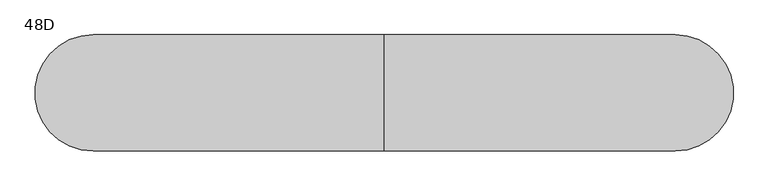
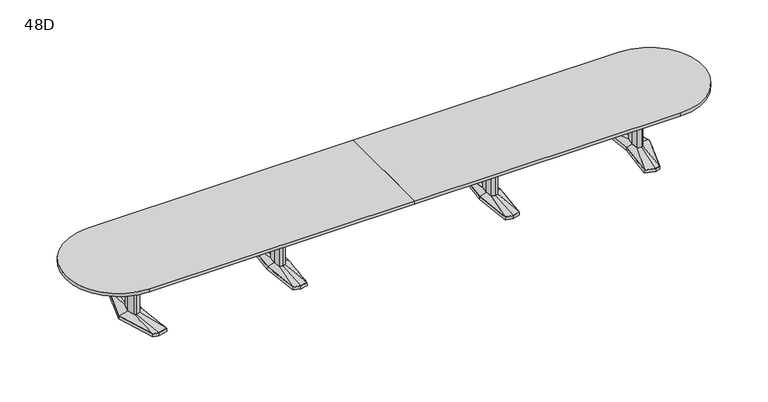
"""IFC4 building model written with IfcOpenShell, lengths in millimetres: furniture geometry, Coalesse_AM_Table_Conference_ETable2_Racetrack_24ft_AluminiumBase : 48D."""

from ifc_helpers import new_model, si_unit, point, frame, frame_2d, origin, place, context, project, spatial, polyline, circle_curve, trimmed, segment, composite_curve, outline, extrude, faceted_brep, source, transform, mapped, element, save
from ifc_brep_helpers import plane_surface, spline_surface, advanced_brep


def furniture_48d_b879e8bd(model_context):
    return source(origin(), model_context, "Body", "SolidModel", [
        faceted_brep([(1137.9666209, -433.8053819, 38.1), (1219.2, -455.556576, 38.1), (1300.4333791, -433.8053819, 38.1), (1338.2564774, 0.0, 38.1), (1300.4333791, 433.8053819, 38.1), (1219.2, 455.556576, 38.1), (1137.9666209, 433.8053819, 38.1), (1100.1435226, 0.0, 38.1), (1136.4817205, -435.0512063, 3.175), (1098.55, 0.0, 3.175), (1136.4817205, 435.0512063, 3.175), (1219.2, 457.2, 3.175), (1301.9182795, 435.0512063, 3.175), (1339.85, 0.0, 3.175), (1301.9182795, -435.0512063, 3.175), (1219.2, -457.2, 3.175), (1219.2, 429.2617927, 3.175), (1141.2323194, 408.3850278, 3.175), (1144.4980179, 382.9646737, 3.175), (1219.2, 402.9670094, 3.175), (1293.9019821, 382.9646737, 3.175), (1297.1676806, 408.3850278, 3.175), (1219.2, -429.2617927, 3.175), (1297.1676806, -408.3850278, 3.175), (1293.9019821, -382.9646737, 3.175), (1219.2, -402.9670094, 3.175), (1144.4980179, -382.9646737, 3.175), (1141.2323194, -408.3850278, 3.175), (1147.3425738, 114.6326257, 3.175), (1136.6573924, 0.0, 3.175), (1147.3425738, -114.6326257, 3.175), (1219.2, -133.8761372, 3.175), (1291.0574262, -114.6326257, 3.175), (1301.7426076, 0.0, 3.175), (1291.0574262, 114.6326257, 3.175), (1219.2, 133.8761372, 3.175), (1219.2, 429.2617927, 0.0), (1297.1676806, 408.3850278, 0.0), (1293.9019821, 382.9646737, 0.0), (1219.2, 402.9670094, 0.0), (1144.4980179, 382.9646737, 0.0), (1141.2323194, 408.3850278, 0.0), (1219.2, -429.2617927, 0.0), (1141.2323194, -408.3850278, 0.0), (1144.4980179, -382.9646737, 0.0), (1219.2, -402.9670094, 0.0), (1293.9019821, -382.9646737, 0.0), (1297.1676806, -408.3850278, 0.0), (1147.3425738, 114.6326257, 0.0), (1219.2, 133.8761372, 0.0), (1291.0574262, 114.6326257, 0.0), (1301.7426076, 0.0, 0.0), (1291.0574262, -114.6326257, 0.0), (1219.2, -133.8761372, 0.0), (1147.3425738, -114.6326257, 0.0), (1136.6573924, 0.0, 0.0)], [[[0, 1, 2, 3, 4, 5, 6, 7]], [[8, 9, 10, 11, 12, 13, 14, 15], [16, 17, 18, 19, 20, 21], [22, 23, 24, 25, 26, 27], [28, 29, 30, 31, 32, 33, 34, 35]], [[1, 0, 8, 15]], [[2, 1, 15, 14]], [[3, 2, 14, 13]], [[4, 3, 13, 12]], [[5, 4, 12, 11]], [[6, 5, 11, 10]], [[7, 6, 10, 9]], [[0, 7, 9, 8]], [[36, 37, 38, 39, 40, 41]], [[42, 43, 44, 45, 46, 47]], [[48, 49, 50, 51, 52, 53, 54, 55]], [[36, 41, 17, 16]], [[41, 40, 18, 17]], [[40, 39, 19, 18]], [[39, 38, 20, 19]], [[38, 37, 21, 20]], [[37, 36, 16, 21]], [[42, 47, 23, 22]], [[47, 46, 24, 23]], [[46, 45, 25, 24]], [[45, 44, 26, 25]], [[44, 43, 27, 26]], [[43, 42, 22, 27]], [[48, 55, 29, 28]], [[55, 54, 30, 29]], [[54, 53, 31, 30]], [[53, 52, 32, 31]], [[52, 51, 33, 32]], [[51, 50, 34, 33]], [[50, 49, 35, 34]], [[49, 48, 28, 35]]]),
        faceted_brep([(1182.8167166, 84.6900825, 698.5), (1174.9225513, 0.0, 698.5), (1182.8167166, -84.6900825, 698.5), (1219.2, -94.4335728, 698.5), (1255.5832834, -84.6900825, 698.5), (1263.4774487, 0.0, 698.5), (1255.5832834, 84.6900825, 698.5), (1219.2, 94.4335728, 698.5), (1182.8167166, 84.6900825, 63.5), (1219.2, 94.4335728, 63.5), (1255.5832834, 84.6900825, 63.5), (1263.4774487, 0.0, 63.5), (1255.5832834, -84.6900825, 63.5), (1219.2, -94.4335728, 63.5), (1182.8167166, -84.6900825, 63.5), (1174.9225513, 0.0, 63.5)], [[[0, 1, 2, 3, 4, 5, 6, 7]], [[8, 9, 10, 11, 12, 13, 14, 15]], [[1, 0, 8, 15]], [[2, 1, 15, 14]], [[3, 2, 14, 13]], [[4, 3, 13, 12]], [[5, 4, 12, 11]], [[6, 5, 11, 10]], [[7, 6, 10, 9]], [[0, 7, 9, 8]]]),
        advanced_brep(
        [(1182.8167166, 84.6900825, 63.5), (1174.9225513, 0.0, 63.5), (1182.8167166, -84.6900825, 63.5), (1219.2, -94.4335728, 63.5), (1255.5832834, -84.6900825, 63.5), (1263.4774487, 0.0, 63.5), (1255.5832834, 84.6900825, 63.5), (1219.2, 94.4335728, 63.5), (1137.9666209, 433.8053819, 38.1), (1219.2, 455.556576, 38.1), (1300.4333791, 433.8053819, 38.1), (1338.2564774, 0.0, 38.1), (1300.4333791, -433.8053819, 38.1), (1219.2, -455.556576, 38.1), (1137.9666209, -433.8053819, 38.1), (1100.1435226, 0.0, 38.1)],
        [
            (0, 1),
            (1, 2),
            (2, 3),
            (3, 4),
            (4, 5),
            (5, 6),
            (6, 7),
            (7, 0),
            (8, 9),
            (9, 10),
            (10, 11),
            (11, 12),
            (12, 13),
            (13, 14),
            (14, 15),
            (15, 8),
            (15, 1),
            (0, 8),
            (14, 2),
            (13, 3),
            (12, 4),
            (11, 5),
            (10, 6),
            (9, 7),
        ],
        [
            plane_surface(frame((1219.2, 0.0, 63.5), z_axis=(0.0, 0.0, 1.0000000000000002), x_axis=(-0.9659615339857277, -0.25868574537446, 0.0))),
            plane_surface(frame((1219.2, 0.0, 38.1), z_axis=(0.0, 0.0, -1.0000000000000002), x_axis=(-0.9659615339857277, -0.25868574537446, 0.0))),
            spline_surface(1, 1, [[(1137.9666209, 433.8053819, 38.1), (1182.8167166, 84.6900825, 63.5)], [(1100.1435226, 0.0, 38.1), (1174.9225513, 0.0, 63.5)]], [2, 2], [2, 2], [0.0, 1.0], [0.0, 1.0]),
            spline_surface(1, 1, [[(1100.1435226, 0.0, 38.1), (1174.9225513, 0.0, 63.5)], [(1137.9666209, -433.8053819, 38.1), (1182.8167166, -84.6900825, 63.5)]], [2, 2], [2, 2], [0.0, 1.0], [0.0, 1.0]),
            spline_surface(1, 1, [[(1137.9666209, -433.8053819, 38.1), (1182.8167166, -84.6900825, 63.5)], [(1219.2, -455.556576, 38.1), (1219.2, -94.4335728, 63.5)]], [2, 2], [2, 2], [0.0, 1.0], [0.0, 1.0]),
            spline_surface(1, 1, [[(1219.2, -455.556576, 38.1), (1219.2, -94.4335728, 63.5)], [(1300.4333791, -433.8053819, 38.1), (1255.5832834, -84.6900825, 63.5)]], [2, 2], [2, 2], [0.0, 1.0], [0.0, 1.0]),
            spline_surface(1, 1, [[(1300.4333791, -433.8053819, 38.1), (1255.5832834, -84.6900825, 63.5)], [(1338.2564774, 0.0, 38.1), (1263.4774487, 0.0, 63.5)]], [2, 2], [2, 2], [0.0, 1.0], [0.0, 1.0]),
            spline_surface(1, 1, [[(1338.2564774, 0.0, 38.1), (1263.4774487, 0.0, 63.5)], [(1300.4333791, 433.8053819, 38.1), (1255.5832834, 84.6900825, 63.5)]], [2, 2], [2, 2], [0.0, 1.0], [0.0, 1.0]),
            spline_surface(1, 1, [[(1300.4333791, 433.8053819, 38.1), (1255.5832834, 84.6900825, 63.5)], [(1219.2, 455.556576, 38.1), (1219.2, 94.4335728, 63.5)]], [2, 2], [2, 2], [0.0, 1.0], [0.0, 1.0]),
            spline_surface(1, 1, [[(1219.2, 455.556576, 38.1), (1219.2, 94.4335728, 63.5)], [(1137.9666209, 433.8053819, 38.1), (1182.8167166, 84.6900825, 63.5)]], [2, 2], [2, 2], [0.0, 1.0], [0.0, 1.0]),
        ],
        [
            (0, [[1, 2, 3, 4, 5, 6, 7, 8]]),
            (1, [[9, 10, 11, 12, 13, 14, 15, 16]]),
            (2, [[-16, 17, -1, 18]]),
            (3, [[-15, 19, -2, -17]]),
            (4, [[-14, 20, -3, -19]]),
            (5, [[-13, 21, -4, -20]]),
            (6, [[-12, 22, -5, -21]]),
            (7, [[-11, 23, -6, -22]]),
            (8, [[-10, 24, -7, -23]]),
            (9, [[-9, -18, -8, -24]]),
        ],
    ),
        faceted_brep([(-1300.4333791, -433.8053819, 38.1), (-1219.2, -455.556576, 38.1), (-1137.9666209, -433.8053819, 38.1), (-1100.1435226, 0.0, 38.1), (-1137.9666209, 433.8053819, 38.1), (-1219.2, 455.556576, 38.1), (-1300.4333791, 433.8053819, 38.1), (-1338.2564774, 0.0, 38.1), (-1301.9182795, -435.0512063, 3.175), (-1339.85, 0.0, 3.175), (-1301.9182795, 435.0512063, 3.175), (-1219.2, 457.2, 3.175), (-1136.4817205, 435.0512063, 3.175), (-1098.55, 0.0, 3.175), (-1136.4817205, -435.0512063, 3.175), (-1219.2, -457.2, 3.175), (-1219.2, 429.2617927, 3.175), (-1297.1676806, 408.3850278, 3.175), (-1293.9019821, 382.9646737, 3.175), (-1219.2, 402.9670094, 3.175), (-1144.4980179, 382.9646737, 3.175), (-1141.2323194, 408.3850278, 3.175), (-1219.2, -429.2617927, 3.175), (-1141.2323194, -408.3850278, 3.175), (-1144.4980179, -382.9646737, 3.175), (-1219.2, -402.9670094, 3.175), (-1293.9019821, -382.9646737, 3.175), (-1297.1676806, -408.3850278, 3.175), (-1291.0574262, 114.6326257, 3.175), (-1301.7426076, 0.0, 3.175), (-1291.0574262, -114.6326257, 3.175), (-1219.2, -133.8761372, 3.175), (-1147.3425738, -114.6326257, 3.175), (-1136.6573924, 0.0, 3.175), (-1147.3425738, 114.6326257, 3.175), (-1219.2, 133.8761372, 3.175), (-1219.2, 429.2617927, 0.0), (-1141.2323194, 408.3850278, 0.0), (-1144.4980179, 382.9646737, 0.0), (-1219.2, 402.9670094, 0.0), (-1293.9019821, 382.9646737, 0.0), (-1297.1676806, 408.3850278, 0.0), (-1219.2, -429.2617927, 0.0), (-1297.1676806, -408.3850278, 0.0), (-1293.9019821, -382.9646737, 0.0), (-1219.2, -402.9670094, 0.0), (-1144.4980179, -382.9646737, 0.0), (-1141.2323194, -408.3850278, 0.0), (-1291.0574262, 114.6326257, 0.0), (-1219.2, 133.8761372, 0.0), (-1147.3425738, 114.6326257, 0.0), (-1136.6573924, 0.0, 0.0), (-1147.3425738, -114.6326257, 0.0), (-1219.2, -133.8761372, 0.0), (-1291.0574262, -114.6326257, 0.0), (-1301.7426076, 0.0, 0.0)], [[[0, 1, 2, 3, 4, 5, 6, 7]], [[8, 9, 10, 11, 12, 13, 14, 15], [16, 17, 18, 19, 20, 21], [22, 23, 24, 25, 26, 27], [28, 29, 30, 31, 32, 33, 34, 35]], [[1, 0, 8, 15]], [[2, 1, 15, 14]], [[3, 2, 14, 13]], [[4, 3, 13, 12]], [[5, 4, 12, 11]], [[6, 5, 11, 10]], [[7, 6, 10, 9]], [[0, 7, 9, 8]], [[36, 37, 38, 39, 40, 41]], [[42, 43, 44, 45, 46, 47]], [[48, 49, 50, 51, 52, 53, 54, 55]], [[36, 41, 17, 16]], [[41, 40, 18, 17]], [[40, 39, 19, 18]], [[39, 38, 20, 19]], [[38, 37, 21, 20]], [[37, 36, 16, 21]], [[42, 47, 23, 22]], [[47, 46, 24, 23]], [[46, 45, 25, 24]], [[45, 44, 26, 25]], [[44, 43, 27, 26]], [[43, 42, 22, 27]], [[48, 55, 29, 28]], [[55, 54, 30, 29]], [[54, 53, 31, 30]], [[53, 52, 32, 31]], [[52, 51, 33, 32]], [[51, 50, 34, 33]], [[50, 49, 35, 34]], [[49, 48, 28, 35]]]),
        faceted_brep([(-1255.5832834, 84.6900825, 698.5), (-1263.4774487, 0.0, 698.5), (-1255.5832834, -84.6900825, 698.5), (-1219.2, -94.4335728, 698.5), (-1182.8167166, -84.6900825, 698.5), (-1174.9225513, 0.0, 698.5), (-1182.8167166, 84.6900825, 698.5), (-1219.2, 94.4335728, 698.5), (-1255.5832834, 84.6900825, 63.5), (-1219.2, 94.4335728, 63.5), (-1182.8167166, 84.6900825, 63.5), (-1174.9225513, 0.0, 63.5), (-1182.8167166, -84.6900825, 63.5), (-1219.2, -94.4335728, 63.5), (-1255.5832834, -84.6900825, 63.5), (-1263.4774487, 0.0, 63.5)], [[[0, 1, 2, 3, 4, 5, 6, 7]], [[8, 9, 10, 11, 12, 13, 14, 15]], [[1, 0, 8, 15]], [[2, 1, 15, 14]], [[3, 2, 14, 13]], [[4, 3, 13, 12]], [[5, 4, 12, 11]], [[6, 5, 11, 10]], [[7, 6, 10, 9]], [[0, 7, 9, 8]]]),
        advanced_brep(
        [(-1255.5832834, 84.6900825, 63.5), (-1263.4774487, 0.0, 63.5), (-1255.5832834, -84.6900825, 63.5), (-1219.2, -94.4335728, 63.5), (-1182.8167166, -84.6900825, 63.5), (-1174.9225513, 0.0, 63.5), (-1182.8167166, 84.6900825, 63.5), (-1219.2, 94.4335728, 63.5), (-1300.4333791, 433.8053819, 38.1), (-1219.2, 455.556576, 38.1), (-1137.9666209, 433.8053819, 38.1), (-1100.1435226, 0.0, 38.1), (-1137.9666209, -433.8053819, 38.1), (-1219.2, -455.556576, 38.1), (-1300.4333791, -433.8053819, 38.1), (-1338.2564774, 0.0, 38.1)],
        [
            (0, 1),
            (1, 2),
            (2, 3),
            (3, 4),
            (4, 5),
            (5, 6),
            (6, 7),
            (7, 0),
            (8, 9),
            (9, 10),
            (10, 11),
            (11, 12),
            (12, 13),
            (13, 14),
            (14, 15),
            (15, 8),
            (15, 1),
            (0, 8),
            (14, 2),
            (13, 3),
            (12, 4),
            (11, 5),
            (10, 6),
            (9, 7),
        ],
        [
            plane_surface(frame((-1219.2, 0.0, 63.5), z_axis=(0.0, 0.0, 1.0000000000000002), x_axis=(-0.9659615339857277, -0.25868574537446, 0.0))),
            plane_surface(frame((-1219.2, 0.0, 38.1), z_axis=(0.0, 0.0, -1.0000000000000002), x_axis=(-0.9659615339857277, -0.25868574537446, 0.0))),
            spline_surface(1, 1, [[(-1300.4333791, 433.8053819, 38.1), (-1255.5832834, 84.6900825, 63.5)], [(-1338.2564774, 0.0, 38.1), (-1263.4774487, 0.0, 63.5)]], [2, 2], [2, 2], [0.0, 1.0], [0.0, 1.0]),
            spline_surface(1, 1, [[(-1338.2564774, 0.0, 38.1), (-1263.4774487, 0.0, 63.5)], [(-1300.4333791, -433.8053819, 38.1), (-1255.5832834, -84.6900825, 63.5)]], [2, 2], [2, 2], [0.0, 1.0], [0.0, 1.0]),
            spline_surface(1, 1, [[(-1300.4333791, -433.8053819, 38.1), (-1255.5832834, -84.6900825, 63.5)], [(-1219.2, -455.556576, 38.1), (-1219.2, -94.4335728, 63.5)]], [2, 2], [2, 2], [0.0, 1.0], [0.0, 1.0]),
            spline_surface(1, 1, [[(-1219.2, -455.556576, 38.1), (-1219.2, -94.4335728, 63.5)], [(-1137.9666209, -433.8053819, 38.1), (-1182.8167166, -84.6900825, 63.5)]], [2, 2], [2, 2], [0.0, 1.0], [0.0, 1.0]),
            spline_surface(1, 1, [[(-1137.9666209, -433.8053819, 38.1), (-1182.8167166, -84.6900825, 63.5)], [(-1100.1435226, 0.0, 38.1), (-1174.9225513, 0.0, 63.5)]], [2, 2], [2, 2], [0.0, 1.0], [0.0, 1.0]),
            spline_surface(1, 1, [[(-1100.1435226, 0.0, 38.1), (-1174.9225513, 0.0, 63.5)], [(-1137.9666209, 433.8053819, 38.1), (-1182.8167166, 84.6900825, 63.5)]], [2, 2], [2, 2], [0.0, 1.0], [0.0, 1.0]),
            spline_surface(1, 1, [[(-1137.9666209, 433.8053819, 38.1), (-1182.8167166, 84.6900825, 63.5)], [(-1219.2, 455.556576, 38.1), (-1219.2, 94.4335728, 63.5)]], [2, 2], [2, 2], [0.0, 1.0], [0.0, 1.0]),
            spline_surface(1, 1, [[(-1219.2, 455.556576, 38.1), (-1219.2, 94.4335728, 63.5)], [(-1300.4333791, 433.8053819, 38.1), (-1255.5832834, 84.6900825, 63.5)]], [2, 2], [2, 2], [0.0, 1.0], [0.0, 1.0]),
        ],
        [
            (0, [[1, 2, 3, 4, 5, 6, 7, 8]]),
            (1, [[9, 10, 11, 12, 13, 14, 15, 16]]),
            (2, [[-16, 17, -1, 18]]),
            (3, [[-15, 19, -2, -17]]),
            (4, [[-14, 20, -3, -19]]),
            (5, [[-13, 21, -4, -20]]),
            (6, [[-12, 22, -5, -21]]),
            (7, [[-11, 23, -6, -22]]),
            (8, [[-10, 24, -7, -23]]),
            (9, [[-9, -18, -8, -24]]),
        ],
    ),
        faceted_brep([(2852.8994335, 455.5848221, 38.1), (2743.3218777, 426.2263816, 38.1), (2784.4851217, 0.0, 38.1), (2743.3218777, -426.2263816, 38.1), (2852.8994335, -455.5848221, 38.1), (2909.0257896, -440.5478297, 38.1), (3046.3371769, 0.0, 38.1), (2909.0257896, 440.5478297, 38.1), (2852.8994254, 457.2283104, 3.175), (2910.2811972, 441.8549756, 3.175), (3048.0, 0.0, 3.175), (2910.2811972, -441.8549756, 3.175), (2852.8994254, -457.2283104, 3.175), (2741.6125, -427.4118891, 3.175), (2782.8902356, 0.0, 3.175), (2741.6125, 427.4118891, 3.175), (2856.488865, 428.3273875, 3.175), (2751.4405728, 402.1057253, 3.175), (2759.559268, 377.985069, 3.175), (2860.0782966, 401.0699529, 3.175), (2910.6379225, 387.524361, 3.175), (2909.8318561, 414.0360954, 3.175), (2856.488865, -428.3273875, 3.175), (2909.8318561, -414.0360954, 3.175), (2910.6379225, -387.524361, 3.175), (2860.0782966, -401.0699529, 3.175), (2759.559268, -377.985069, 3.175), (2751.4405728, -402.1057253, 3.175), (2983.0841121, 0.0, 3.175), (2950.8147111, 120.4193755, 3.175), (2902.1674722, 133.471665, 3.175), (2822.2868026, 119.4176561, 3.175), (2811.1555966, 0.0, 3.175), (2822.2868026, -119.4176561, 3.175), (2902.1674722, -133.471665, 3.175), (2950.8147111, -120.4193755, 3.175), (2856.488865, 428.3273875, 0.0), (2909.8318561, 414.0360954, 0.0), (2910.6379225, 387.524361, 0.0), (2860.0782966, 401.0699529, 0.0), (2759.559268, 377.985069, 0.0), (2751.4405728, 402.1057253, 0.0), (2856.488865, -428.3273875, 0.0), (2751.4405728, -402.1057253, 0.0), (2759.559268, -377.985069, 0.0), (2860.0782966, -401.0699529, 0.0), (2910.6379225, -387.524361, 0.0), (2909.8318561, -414.0360954, 0.0), (2983.0841121, 0.0, 0.0), (2950.8147111, -120.4193755, 0.0), (2902.1674722, -133.471665, 0.0), (2822.2868026, -119.4176561, 0.0), (2811.1555966, 0.0, 0.0), (2822.2868026, 119.4176561, 0.0), (2902.1674722, 133.471665, 0.0), (2950.8147111, 120.4193755, 0.0)], [[[0, 1, 2, 3, 4, 5, 6, 7]], [[8, 9, 10, 11, 12, 13, 14, 15], [16, 17, 18, 19, 20, 21], [22, 23, 24, 25, 26, 27], [28, 29, 30, 31, 32, 33, 34, 35]], [[7, 9, 8, 0]], [[6, 10, 9, 7]], [[5, 11, 10, 6]], [[4, 12, 11, 5]], [[3, 13, 12, 4]], [[2, 14, 13, 3]], [[1, 15, 14, 2]], [[0, 8, 15, 1]], [[36, 37, 38, 39, 40, 41]], [[42, 43, 44, 45, 46, 47]], [[48, 49, 50, 51, 52, 53, 54, 55]], [[36, 16, 21, 37]], [[37, 21, 20, 38]], [[38, 20, 19, 39]], [[39, 19, 18, 40]], [[40, 18, 17, 41]], [[41, 17, 16, 36]], [[42, 22, 27, 43]], [[43, 27, 26, 44]], [[44, 26, 25, 45]], [[45, 25, 24, 46]], [[46, 24, 23, 47]], [[47, 23, 22, 42]], [[48, 28, 35, 49]], [[49, 35, 34, 50]], [[50, 34, 33, 51]], [[51, 33, 32, 52]], [[52, 32, 31, 53]], [[53, 31, 30, 54]], [[54, 30, 29, 55]], [[55, 29, 28, 48]]]),
        faceted_brep([(2943.6398336, 0.0, 698.5), (2919.7046046, 89.3188359, 698.5), (2902.8512484, 93.8406728, 698.5), (2900.4514011, 94.4845635, 698.5), (2857.523896, 86.9320037, 698.5), (2849.4207556, 0.0, 698.5), (2857.523896, -86.9320037, 698.5), (2900.4514011, -94.4845635, 698.5), (2902.8512484, -93.8406728, 698.5), (2919.7046046, -89.3188359, 698.5), (2943.6398336, 0.0, 63.5), (2919.7046046, -89.3188359, 63.5), (2902.8512484, -93.8406728, 63.5), (2900.4514011, -94.4845635, 63.5), (2857.523896, -86.9320037, 63.5), (2849.4207556, 0.0, 63.5), (2857.523896, 86.9320037, 63.5), (2900.4514011, 94.4845635, 63.5), (2902.8512484, 93.8406728, 63.5), (2919.7046046, 89.3188359, 63.5)], [[[0, 1, 2, 3, 4, 5, 6, 7, 8, 9]], [[10, 11, 12, 13, 14, 15, 16, 17, 18, 19]], [[9, 11, 10, 0]], [[8, 12, 11, 9]], [[7, 13, 12, 8]], [[6, 14, 13, 7]], [[5, 15, 14, 6]], [[4, 16, 15, 5]], [[3, 17, 16, 4]], [[2, 18, 17, 3]], [[1, 19, 18, 2]], [[0, 10, 19, 1]]]),
        advanced_brep(
        [(2900.4514011, 94.4845635, 63.5), (2857.523896, 86.9320037, 63.5), (2849.4207556, 0.0, 63.5), (2857.523896, -86.9320037, 63.5), (2900.4514011, -94.4845635, 63.5), (2919.7046046, -89.3188359, 63.5), (2943.6398336, 0.0, 63.5), (2919.7046046, 89.3188359, 63.5), (2852.8994335, 455.5848221, 38.1), (2909.0257896, 440.5478297, 38.1), (3046.3371769, 0.0, 38.1), (2909.0257896, -440.5478297, 38.1), (2852.8994335, -455.5848221, 38.1), (2743.3218777, -426.2263816, 38.1), (2784.4851217, 0.0, 38.1), (2743.3218777, 426.2263816, 38.1)],
        [
            (0, 1),
            (1, 2),
            (2, 3),
            (3, 4),
            (4, 5),
            (5, 6),
            (6, 7),
            (7, 0),
            (8, 9),
            (9, 10),
            (10, 11),
            (11, 12),
            (12, 13),
            (13, 14),
            (14, 15),
            (15, 8),
            (8, 0),
            (7, 9),
            (6, 10),
            (5, 11),
            (4, 12),
            (3, 13),
            (2, 14),
            (1, 15),
        ],
        [
            plane_surface(frame((2893.5525491, 0.0, 63.5), z_axis=(0.0, 0.0, 1.0), x_axis=(-0.25884244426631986, -0.9659195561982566, 0.0))),
            plane_surface(frame((2855.1645625, 0.0, 38.1), z_axis=(0.0, 0.0, -1.0), x_axis=(-0.25884244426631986, -0.9659195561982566, 0.0))),
            spline_surface(1, 1, [[(2852.8994335, 455.5848221, 38.1), (2909.0257896, 440.5478297, 38.1)], [(2900.4514011, 94.4845635, 63.5), (2919.7046046, 89.3188359, 63.5)]], [2, 2], [2, 2], [0.0, 1.0], [0.0, 1.0]),
            spline_surface(1, 1, [[(2909.0257896, 440.5478297, 38.1), (3046.3371769, 0.0, 38.1)], [(2919.7046046, 89.3188359, 63.5), (2943.6398336, 0.0, 63.5)]], [2, 2], [2, 2], [0.0, 1.0], [0.0, 1.0]),
            spline_surface(1, 1, [[(3046.3371769, 0.0, 38.1), (2909.0257896, -440.5478297, 38.1)], [(2943.6398336, 0.0, 63.5), (2919.7046046, -89.3188359, 63.5)]], [2, 2], [2, 2], [0.0, 1.0], [0.0, 1.0]),
            spline_surface(1, 1, [[(2909.0257896, -440.5478297, 38.1), (2852.8994335, -455.5848221, 38.1)], [(2919.7046046, -89.3188359, 63.5), (2900.4514011, -94.4845635, 63.5)]], [2, 2], [2, 2], [0.0, 1.0], [0.0, 1.0]),
            spline_surface(1, 1, [[(2852.8994335, -455.5848221, 38.1), (2743.3218777, -426.2263816, 38.1)], [(2900.4514011, -94.4845635, 63.5), (2857.523896, -86.9320037, 63.5)]], [2, 2], [2, 2], [0.0, 1.0], [0.0, 1.0]),
            spline_surface(1, 1, [[(2743.3218777, -426.2263816, 38.1), (2784.4851217, 0.0, 38.1)], [(2857.523896, -86.9320037, 63.5), (2849.4207556, 0.0, 63.5)]], [2, 2], [2, 2], [0.0, 1.0], [0.0, 1.0]),
            spline_surface(1, 1, [[(2784.4851217, 0.0, 38.1), (2743.3218777, 426.2263816, 38.1)], [(2849.4207556, 0.0, 63.5), (2857.523896, 86.9320037, 63.5)]], [2, 2], [2, 2], [0.0, 1.0], [0.0, 1.0]),
            spline_surface(1, 1, [[(2743.3218777, 426.2263816, 38.1), (2852.8994335, 455.5848221, 38.1)], [(2857.523896, 86.9320037, 63.5), (2900.4514011, 94.4845635, 63.5)]], [2, 2], [2, 2], [0.0, 1.0], [0.0, 1.0]),
        ],
        [
            (0, [[1, 2, 3, 4, 5, 6, 7, 8]]),
            (1, [[9, 10, 11, 12, 13, 14, 15, 16]]),
            (2, [[17, -8, 18, -9]]),
            (3, [[-18, -7, 19, -10]]),
            (4, [[-19, -6, 20, -11]]),
            (5, [[-20, -5, 21, -12]]),
            (6, [[-21, -4, 22, -13]]),
            (7, [[-22, -3, 23, -14]]),
            (8, [[-23, -2, 24, -15]]),
            (9, [[-24, -1, -17, -16]]),
        ],
    ),
        faceted_brep([(-2852.8994335, 455.5848221, 38.1), (-2909.0257896, 440.5478297, 38.1), (-3046.3371769, 0.0, 38.1), (-2909.0257896, -440.5478297, 38.1), (-2852.8994335, -455.5848221, 38.1), (-2743.3218777, -426.2263816, 38.1), (-2784.4851217, 0.0, 38.1), (-2743.3218777, 426.2263816, 38.1), (-2852.8994254, 457.2283104, 3.175), (-2741.6125, 427.4118891, 3.175), (-2782.8902356, 0.0, 3.175), (-2741.6125, -427.4118891, 3.175), (-2852.8994254, -457.2283104, 3.175), (-2910.2811972, -441.8549756, 3.175), (-3048.0, 0.0, 3.175), (-2910.2811972, 441.8549756, 3.175), (-2856.488865, 428.3273875, 3.175), (-2909.8318561, 414.0360954, 3.175), (-2910.6379225, 387.524361, 3.175), (-2860.0782966, 401.0699529, 3.175), (-2759.559268, 377.985069, 3.175), (-2751.4405728, 402.1057253, 3.175), (-2856.488865, -428.3273875, 3.175), (-2751.4405728, -402.1057253, 3.175), (-2759.559268, -377.985069, 3.175), (-2860.0782966, -401.0699529, 3.175), (-2910.6379225, -387.524361, 3.175), (-2909.8318561, -414.0360954, 3.175), (-2983.0841121, 0.0, 3.175), (-2950.8147111, -120.4193755, 3.175), (-2902.1674722, -133.471665, 3.175), (-2822.2868026, -119.4176561, 3.175), (-2811.1555966, 0.0, 3.175), (-2822.2868026, 119.4176561, 3.175), (-2902.1674722, 133.471665, 3.175), (-2950.8147111, 120.4193755, 3.175), (-2856.488865, 428.3273875, 0.0), (-2751.4405728, 402.1057253, 0.0), (-2759.559268, 377.985069, 0.0), (-2860.0782966, 401.0699529, 0.0), (-2910.6379225, 387.524361, 0.0), (-2909.8318561, 414.0360954, 0.0), (-2856.488865, -428.3273875, 0.0), (-2909.8318561, -414.0360954, 0.0), (-2910.6379225, -387.524361, 0.0), (-2860.0782966, -401.0699529, 0.0), (-2759.559268, -377.985069, 0.0), (-2751.4405728, -402.1057253, 0.0), (-2983.0841121, 0.0, 0.0), (-2950.8147111, 120.4193755, 0.0), (-2902.1674722, 133.471665, 0.0), (-2822.2868026, 119.4176561, 0.0), (-2811.1555966, 0.0, 0.0), (-2822.2868026, -119.4176561, 0.0), (-2902.1674722, -133.471665, 0.0), (-2950.8147111, -120.4193755, 0.0)], [[[0, 1, 2, 3, 4, 5, 6, 7]], [[8, 9, 10, 11, 12, 13, 14, 15], [16, 17, 18, 19, 20, 21], [22, 23, 24, 25, 26, 27], [28, 29, 30, 31, 32, 33, 34, 35]], [[1, 0, 8, 15]], [[2, 1, 15, 14]], [[3, 2, 14, 13]], [[4, 3, 13, 12]], [[5, 4, 12, 11]], [[6, 5, 11, 10]], [[7, 6, 10, 9]], [[0, 7, 9, 8]], [[36, 37, 38, 39, 40, 41]], [[42, 43, 44, 45, 46, 47]], [[48, 49, 50, 51, 52, 53, 54, 55]], [[36, 41, 17, 16]], [[41, 40, 18, 17]], [[40, 39, 19, 18]], [[39, 38, 20, 19]], [[38, 37, 21, 20]], [[37, 36, 16, 21]], [[42, 47, 23, 22]], [[47, 46, 24, 23]], [[46, 45, 25, 24]], [[45, 44, 26, 25]], [[44, 43, 27, 26]], [[43, 42, 22, 27]], [[48, 55, 29, 28]], [[55, 54, 30, 29]], [[54, 53, 31, 30]], [[53, 52, 32, 31]], [[52, 51, 33, 32]], [[51, 50, 34, 33]], [[50, 49, 35, 34]], [[49, 48, 28, 35]]]),
        faceted_brep([(-2943.6398336, 0.0, 698.5), (-2919.7046046, -89.3188359, 698.5), (-2902.8512484, -93.8406728, 698.5), (-2900.4514011, -94.4845635, 698.5), (-2857.523896, -86.9320037, 698.5), (-2849.4207556, 0.0, 698.5), (-2857.523896, 86.9320037, 698.5), (-2900.4514011, 94.4845635, 698.5), (-2902.8512484, 93.8406728, 698.5), (-2919.7046046, 89.3188359, 698.5), (-2943.6398336, 0.0, 63.5), (-2919.7046046, 89.3188359, 63.5), (-2902.8512484, 93.8406728, 63.5), (-2900.4514011, 94.4845635, 63.5), (-2857.523896, 86.9320037, 63.5), (-2849.4207556, 0.0, 63.5), (-2857.523896, -86.9320037, 63.5), (-2900.4514011, -94.4845635, 63.5), (-2902.8512484, -93.8406728, 63.5), (-2919.7046046, -89.3188359, 63.5)], [[[0, 1, 2, 3, 4, 5, 6, 7, 8, 9]], [[10, 11, 12, 13, 14, 15, 16, 17, 18, 19]], [[1, 0, 10, 19]], [[2, 1, 19, 18]], [[3, 2, 18, 17]], [[4, 3, 17, 16]], [[5, 4, 16, 15]], [[6, 5, 15, 14]], [[7, 6, 14, 13]], [[8, 7, 13, 12]], [[9, 8, 12, 11]], [[0, 9, 11, 10]]]),
        advanced_brep(
        [(-2900.4514011, 94.4845635, 63.5), (-2919.7046046, 89.3188359, 63.5), (-2943.6398336, 0.0, 63.5), (-2919.7046046, -89.3188359, 63.5), (-2900.4514011, -94.4845635, 63.5), (-2857.523896, -86.9320037, 63.5), (-2849.4207556, 0.0, 63.5), (-2857.523896, 86.9320037, 63.5), (-2852.8994335, 455.5848221, 38.1), (-2743.3218777, 426.2263816, 38.1), (-2784.4851217, 0.0, 38.1), (-2743.3218777, -426.2263816, 38.1), (-2852.8994335, -455.5848221, 38.1), (-2909.0257896, -440.5478297, 38.1), (-3046.3371769, 0.0, 38.1), (-2909.0257896, 440.5478297, 38.1)],
        [
            (0, 1),
            (1, 2),
            (2, 3),
            (3, 4),
            (4, 5),
            (5, 6),
            (6, 7),
            (7, 0),
            (8, 9),
            (9, 10),
            (10, 11),
            (11, 12),
            (12, 13),
            (13, 14),
            (14, 15),
            (15, 8),
            (15, 1),
            (0, 8),
            (14, 2),
            (13, 3),
            (12, 4),
            (11, 5),
            (10, 6),
            (9, 7),
        ],
        [
            plane_surface(frame((-2893.5525491, 0.0, 63.5), z_axis=(0.0, 0.0, 1.0), x_axis=(0.25884244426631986, -0.9659195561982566, 0.0))),
            plane_surface(frame((-2855.1645625, 0.0, 38.1), z_axis=(0.0, 0.0, -1.0), x_axis=(0.25884244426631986, -0.9659195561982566, 0.0))),
            spline_surface(1, 1, [[(-2852.8994335, 455.5848221, 38.1), (-2900.4514011, 94.4845635, 63.5)], [(-2909.0257896, 440.5478297, 38.1), (-2919.7046046, 89.3188359, 63.5)]], [2, 2], [2, 2], [0.0, 1.0], [0.0, 1.0]),
            spline_surface(1, 1, [[(-2909.0257896, 440.5478297, 38.1), (-2919.7046046, 89.3188359, 63.5)], [(-3046.3371769, 0.0, 38.1), (-2943.6398336, 0.0, 63.5)]], [2, 2], [2, 2], [0.0, 1.0], [0.0, 1.0]),
            spline_surface(1, 1, [[(-3046.3371769, 0.0, 38.1), (-2943.6398336, 0.0, 63.5)], [(-2909.0257896, -440.5478297, 38.1), (-2919.7046046, -89.3188359, 63.5)]], [2, 2], [2, 2], [0.0, 1.0], [0.0, 1.0]),
            spline_surface(1, 1, [[(-2909.0257896, -440.5478297, 38.1), (-2919.7046046, -89.3188359, 63.5)], [(-2852.8994335, -455.5848221, 38.1), (-2900.4514011, -94.4845635, 63.5)]], [2, 2], [2, 2], [0.0, 1.0], [0.0, 1.0]),
            spline_surface(1, 1, [[(-2852.8994335, -455.5848221, 38.1), (-2900.4514011, -94.4845635, 63.5)], [(-2743.3218777, -426.2263816, 38.1), (-2857.523896, -86.9320037, 63.5)]], [2, 2], [2, 2], [0.0, 1.0], [0.0, 1.0]),
            spline_surface(1, 1, [[(-2743.3218777, -426.2263816, 38.1), (-2857.523896, -86.9320037, 63.5)], [(-2784.4851217, 0.0, 38.1), (-2849.4207556, 0.0, 63.5)]], [2, 2], [2, 2], [0.0, 1.0], [0.0, 1.0]),
            spline_surface(1, 1, [[(-2784.4851217, 0.0, 38.1), (-2849.4207556, 0.0, 63.5)], [(-2743.3218777, 426.2263816, 38.1), (-2857.523896, 86.9320037, 63.5)]], [2, 2], [2, 2], [0.0, 1.0], [0.0, 1.0]),
            spline_surface(1, 1, [[(-2743.3218777, 426.2263816, 38.1), (-2857.523896, 86.9320037, 63.5)], [(-2852.8994335, 455.5848221, 38.1), (-2900.4514011, 94.4845635, 63.5)]], [2, 2], [2, 2], [0.0, 1.0], [0.0, 1.0]),
        ],
        [
            (0, [[1, 2, 3, 4, 5, 6, 7, 8]]),
            (1, [[9, 10, 11, 12, 13, 14, 15, 16]]),
            (2, [[-16, 17, -1, 18]]),
            (3, [[-15, 19, -2, -17]]),
            (4, [[-14, 20, -3, -19]]),
            (5, [[-13, 21, -4, -20]]),
            (6, [[-12, 22, -5, -21]]),
            (7, [[-11, 23, -6, -22]]),
            (8, [[-10, 24, -7, -23]]),
            (9, [[-9, -18, -8, -24]]),
        ],
    ),
        extrude(outline(polyline([(96.8375, 698.5), (103.1875, 698.5), (103.1875, 476.25), (-103.1875, 476.25), (-103.1875, 698.5), (-96.8375, 698.5), (-96.8375, 482.6), (96.8375, 482.6), (96.8375, 698.5)])), frame((-1174.9225513, 0.0, 0.0), z_axis=(1.0, 0.0, 0.0), x_axis=(0.0, 1.0, 0.0)), (0.0, 0.0, 1.0), 2349.8451026),
        extrude(outline(polyline([(96.8375, 698.5), (103.1875, 698.5), (103.1875, 476.25), (-103.1875, 476.25), (-103.1875, 698.5), (-96.8375, 698.5), (-96.8375, 482.6), (96.8375, 482.6), (96.8375, 698.5)])), frame((1263.4774487, 0.0, 0.0), z_axis=(1.0, 0.0, 0.0), x_axis=(0.0, 1.0, 0.0)), (0.0, 0.0, 1.0), 1586.0850513),
        extrude(outline(composite_curve([segment(trimmed(circle_curve(frame_2d((3048.0, 0.0)), 609.6), [point((3048.0, 609.6))], [point((3048.0, -609.6))], False, "CARTESIAN"), True, "CONTINUOUS"), segment(polyline([(3048.0, -609.6), (0.0, -609.6), (0.0, 609.6), (3048.0, 609.6)]), True, "CONTINUOUS")], self_intersect=False)), frame((0.0, 0.0, 698.5), z_axis=(0.0, 0.0, 1.0), x_axis=(1.0, 0.0, 0.0)), (0.0, 0.0, 1.0), 38.1),
        extrude(outline(composite_curve([segment(polyline([(0.0, 609.6), (0.0, -609.6), (-3048.0, -609.6)]), True, "CONTINUOUS"), segment(trimmed(circle_curve(frame_2d((-3048.0, 0.0)), 609.6), [point((-3048.0, -609.6))], [point((-3048.0, 609.6))], False, "CARTESIAN"), True, "CONTINUOUS"), segment(polyline([(-3048.0, 609.6), (0.0, 609.6)]), True, "CONTINUOUS")], self_intersect=False)), frame((0.0, 0.0, 698.5), z_axis=(0.0, 0.0, 1.0), x_axis=(1.0, 0.0, 0.0)), (0.0, 0.0, 1.0), 38.1),
        extrude(outline(polyline([(96.8375, 698.5), (103.1875, 698.5), (103.1875, 476.25), (-103.1875, 476.25), (-103.1875, 698.5), (-96.8375, 698.5), (-96.8375, 482.6), (96.8375, 482.6), (96.8375, 698.5)])), frame((-2849.5625, 0.0, 0.0), z_axis=(1.0, 0.0, 0.0), x_axis=(0.0, 1.0, 0.0)), (0.0, 0.0, 1.0), 1586.0850513),
    ])


if __name__ == "__main__":
    model = new_model("IFC4")
    model_context = context("Model", 3, world=origin())
    ifc_project = project(units=[si_unit("LENGTHUNIT", "METRE", prefix="MILLI")], contexts=[model_context])
    site = spatial("IfcSite", under=ifc_project)
    building = spatial("IfcBuilding", under=site)
    placement = place(None, origin())
    furniture_48d_shape = furniture_48d_b879e8bd(model_context)
    element("IfcFurniture", 1, ObjectType="Coalesse_AM_Table_Conference_ETable2_Racetrack_24ft_AluminiumBase : 48D", at=placement, inside=building, context=model_context, shape_type="MappedRepresentation", body=[
        mapped(furniture_48d_shape, transform((0.0, 0.0, 0.0), x_axis=(1.0, 0.0, 0.0), y_axis=(0.0, 1.0, 0.0), z_axis=(0.0, 0.0, 1.0))),
    ])
    save(model, "model.ifc")
